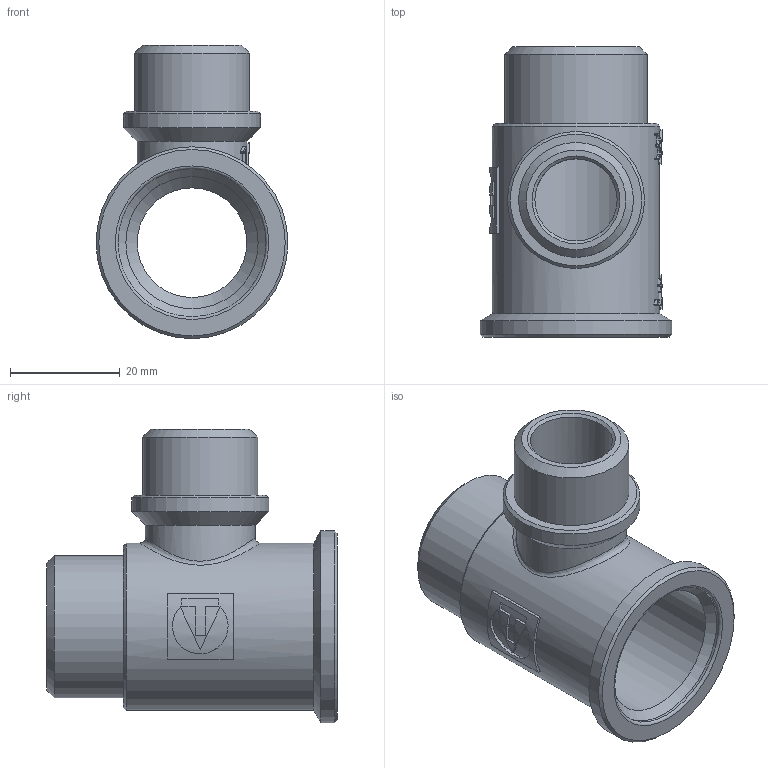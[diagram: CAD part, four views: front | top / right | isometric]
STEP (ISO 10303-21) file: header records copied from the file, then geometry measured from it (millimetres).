
FILE_DESCRIPTION(('STEP AP203'), '1');
FILE_NAME('ÂÐ.752249.007 - VTr.133.RN.050405 -Ôèò. ðåçüá. òðîé', '2024-06-25T11:47:49', ('Boss'), (''), 'C3D Converter', 'C3D Toolkit', '');
FILE_SCHEMA(('CONFIG_CONTROL_DESIGN'));
Length unit declared in the file: millimetre
Products named in the file (1): ВР.752249.007
Bounding box: 35 x 53 x 53.5 mm (x, y, z)
Volume: 18176.3 mm3; surface area: 12233.4 mm2
Topology: 1 solids, 1 shells, 350 faces, 970 edges, 642 vertices
Faces by surface type: extrusion 196, plane 112, cylinder 29, cone 11, bspline 1, torus 1
Full cylindrical faces by diameter (mm): 15 x1, 20 x2, 20.955 x1, 24.118 x1, 25 x1, 26 x1, 27 x1, 30.5 x1, 35 x1
Entity records: 15833 total; most frequent: CARTESIAN_POINT 7996, ORIENTED_EDGE 1890, DIRECTION 1020, EDGE_CURVE 945, VERTEX_POINT 641, B_SPLINE_CURVE_WITH_KNOTS 592, VECTOR 548, EDGE_LOOP 398
